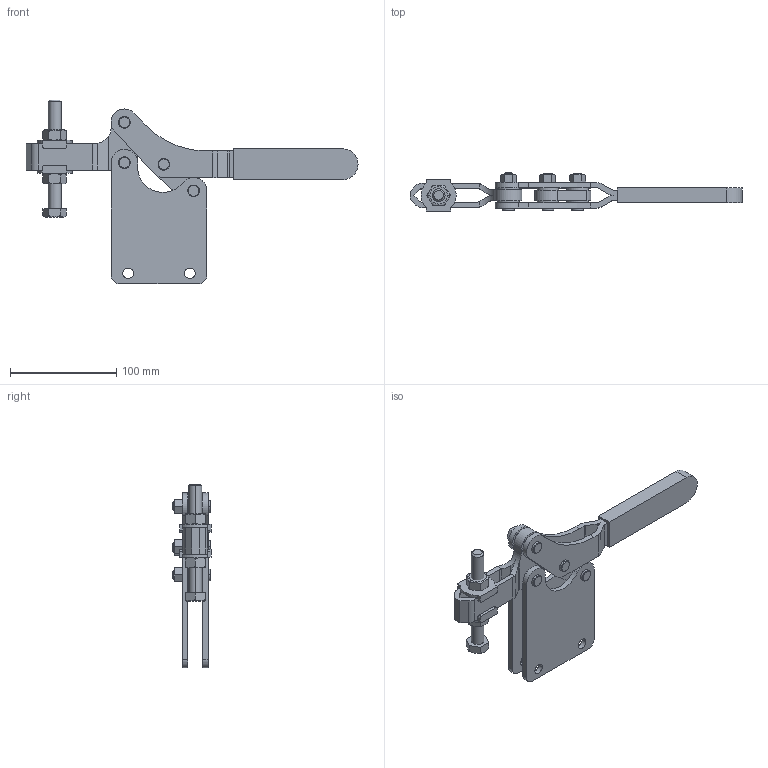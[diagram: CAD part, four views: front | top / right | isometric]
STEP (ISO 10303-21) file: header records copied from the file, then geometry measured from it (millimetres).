
FILE_DESCRIPTION(('CATIA V5 STEP Exchange'),'2;1');
FILE_NAME('D:\Model\toggle\toggle_standard\KJF_065_23S.stp','2005-06-24T03:10:21+00:00',('none'),('none'),'CATIA Version 5 Release 11 (IN-9)','CATIA V5 STEP AP203',' none');
FILE_SCHEMA(('CONFIG_CONTROL_DESIGN'));
Length unit declared in the file: millimetre
Products named in the file (1): Part1
Bounding box: 312 x 35.75 x 172.89 mm (x, y, z)
Volume: 262517.7 mm3; surface area: 110484.3 mm2
Topology: 26 solids, 26 shells, 364 faces, 896 edges, 588 vertices
Faces by surface type: plane 163, cylinder 113, cone 78, torus 10
Entity records: 11178 total; most frequent: CARTESIAN_POINT 3291, ORIENTED_EDGE 1792, DIRECTION 1232, EDGE_CURVE 896, VERTEX_POINT 588, AXIS2_PLACEMENT_3D 571, VECTOR 400, LINE 400
